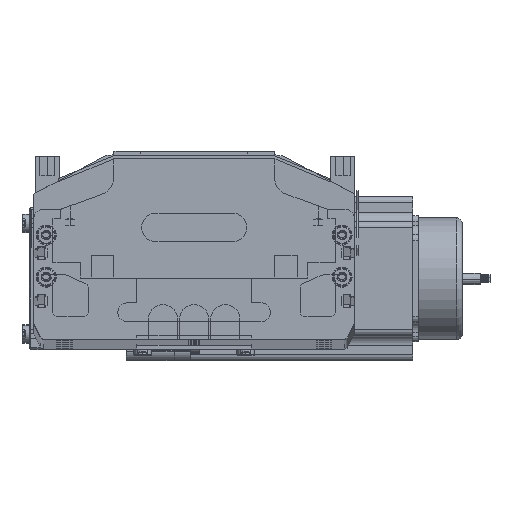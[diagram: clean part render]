
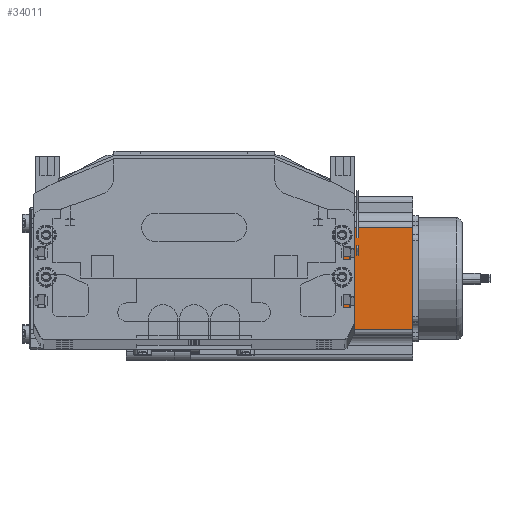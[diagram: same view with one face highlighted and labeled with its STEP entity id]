
A CAD part, top view. The second image highlights one B-rep face of the part: STEP entity #34011.
In plain terms, the highlighted planar face has unit normal (0, 0, 1) as drawn and (0, -1, 0) by its records, which use the part's own axes.
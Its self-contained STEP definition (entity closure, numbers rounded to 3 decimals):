
#12436 = CARTESIAN_POINT ( 'NONE',  ( 16.16, 0., 116.5 ) ) ;
#12445 = LINE ( 'NONE', #12620, #12617 ) ;
#12472 = LINE ( 'NONE', #12582, #12581 ) ;
#12530 = DIRECTION ( 'NONE',  ( 0., 0., 1. ) ) ;
#12532 = DIRECTION ( 'NONE',  ( 0., 1., 0. ) ) ;
#12535 = CARTESIAN_POINT ( 'NONE',  ( 0., 0., 116.5 ) ) ;
#12537 = AXIS2_PLACEMENT_3D ( 'NONE', #12535, #12532, #12530 ) ;
#12579 = DIRECTION ( 'NONE',  ( 1., 0., 0. ) ) ;
#12581 = VECTOR ( 'NONE', #12579, 1000. ) ;
#12582 = CARTESIAN_POINT ( 'NONE',  ( 0., 0., 116.5 ) ) ;
#12584 = CARTESIAN_POINT ( 'NONE',  ( 69.74, 0., 116.5 ) ) ;
#12592 = DIRECTION ( 'NONE',  ( 0., 0., -1. ) ) ;
#12596 = PLANE ( 'NONE',  #12537 ) ;
#12605 = FACE_OUTER_BOUND ( 'NONE', #63397, .T. ) ;
#12615 = DIRECTION ( 'NONE',  ( 0., 0., 1. ) ) ;
#12617 = VECTOR ( 'NONE', #12615, 1000. ) ;
#12620 = CARTESIAN_POINT ( 'NONE',  ( 69.74, 0., 116.5 ) ) ;
#12637 = VECTOR ( 'NONE', #12592, 1000. ) ;
#12639 = CARTESIAN_POINT ( 'NONE',  ( 16.16, 0., 116.5 ) ) ;
#12640 = LINE ( 'NONE', #12639, #12637 ) ;
#12972 = CARTESIAN_POINT ( 'NONE',  ( 69.74, 0., 0. ) ) ;
#17516 = CARTESIAN_POINT ( 'NONE',  ( 0., 0., 0. ) ) ;
#17517 = LINE ( 'NONE', #17516, #17593 ) ;
#17582 = CARTESIAN_POINT ( 'NONE',  ( 16.16, 0., 0. ) ) ;
#17591 = DIRECTION ( 'NONE',  ( 1., 0., 0. ) ) ;
#17593 = VECTOR ( 'NONE', #17591, 1000. ) ;
#34001 = EDGE_CURVE ( 'NONE', #34079, #34008, #12445, .T. ) ;
#34005 = EDGE_CURVE ( 'NONE', #34007, #63458, #12640, .T. ) ;
#34006 = EDGE_CURVE ( 'NONE', #34007, #34008, #12472, .T. ) ;
#34007 = VERTEX_POINT ( 'NONE', #12436 ) ;
#34008 = VERTEX_POINT ( 'NONE', #12584 ) ;
#34011 = ADVANCED_FACE ( 'NONE', ( #12605 ), #12596, .F. ) ;
#34012 = ORIENTED_EDGE ( 'NONE', *, *, #34001, .T. ) ;
#34014 = ORIENTED_EDGE ( 'NONE', *, *, #63445, .T. ) ;
#34078 = ORIENTED_EDGE ( 'NONE', *, *, #34006, .F. ) ;
#34079 = VERTEX_POINT ( 'NONE', #12972 ) ;
#63397 = EDGE_LOOP ( 'NONE', ( #34014, #34012, #34078, #63450 ) ) ;
#63445 = EDGE_CURVE ( 'NONE', #63458, #34079, #17517, .T. ) ;
#63450 = ORIENTED_EDGE ( 'NONE', *, *, #34005, .T. ) ;
#63458 = VERTEX_POINT ( 'NONE', #17582 ) ;
